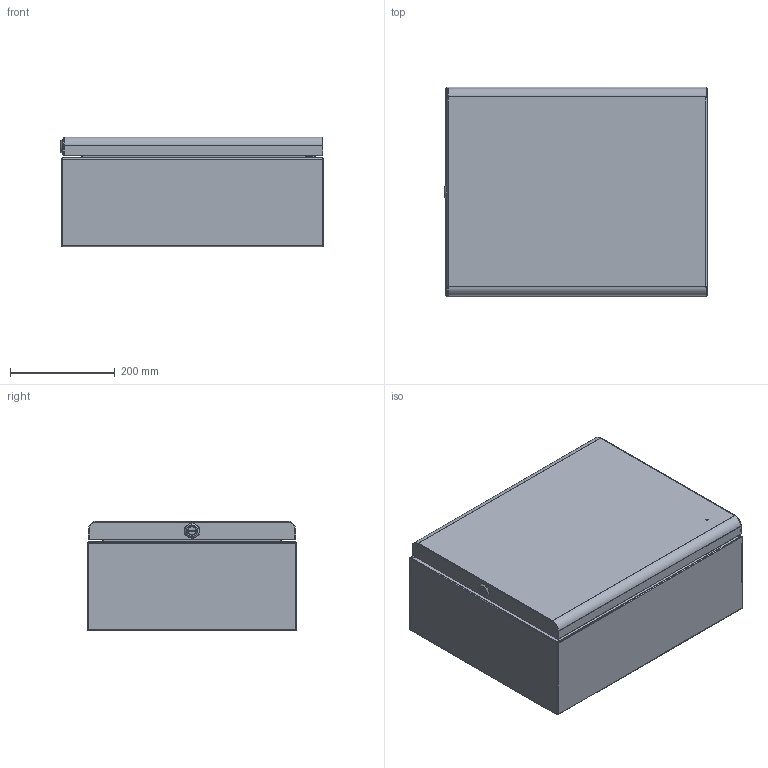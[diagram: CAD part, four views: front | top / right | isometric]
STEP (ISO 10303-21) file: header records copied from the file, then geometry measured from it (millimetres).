
FILE_DESCRIPTION((''),'2;1');
FILE_NAME('1803000013_ASM','2019-05-17T11:39:10',('Nils.Guenther'),(''),'CREO PARAMETRIC BY PTC INC, 2017260','CREO PARAMETRIC BY PTC INC, 2017260','');
FILE_SCHEMA(('AUTOMOTIVE_DESIGN { 1 0 10303 214 1 1 1 1 }'));
Products named in the file (24): 9681001203_KORPUS; 9531035000_005; VERSTEIFUNG_1803000015; 9421655000; ERDUNGSBOLZEN_M5X12; 9681001203_ASM; 9680500503_TUER; 9531035000_001; 9531035000_002; 9531035000_003; 9531035000_01_ASM; 9680500503_ASM; 9421651000_001; 9421651000_002; 9421651000_003; 9421651000_004; 9421651000_005; 9421651000_006; 9421651000_007; 9421627000; 9421651000_ASM; 9531035000_004; 9531035000_006; 1803000013_ASM
Assembly tree (34 placements, depth 4):
  1803000013_ASM
    9681001203_ASM
      9681001203_KORPUS
      9531035000_005  x2
      VERSTEIFUNG_1803000015
      9421655000
      ERDUNGSBOLZEN_M5X12  x5
    9680500503_ASM
      9680500503_TUER
      ERDUNGSBOLZEN_M5X12
      9531035000_01_ASM  x2
        9531035000_001
        9531035000_002
        9531035000_003
    9421651000_ASM
      9421651000_001
      9421651000_002
      9421651000_003
      9421651000_004
      9421651000_005
      9421651000_006
      9421651000_007
      9421627000
    9531035000_004  x2
    9531035000_006  x4
Bounding box: 501.25 x 400 x 209.95 mm (x, y, z)
Volume: 1396434.8 mm3; surface area: 1847247.5 mm2
Topology: 32 solids, 32 shells, 1112 faces, 2814 edges, 1772 vertices
Faces by surface type: plane 550, cylinder 399, cone 110, bspline 30, torus 20, sphere 3
Entity records: 68588 total; most frequent: CARTESIAN_POINT 44478, DIRECTION 4189, ORIENTED_EDGE 4100, EDGE_CURVE 2050, AXIS2_PLACEMENT_3D 1483, VERTEX_POINT 1284, VECTOR 1223, LINE 1223
